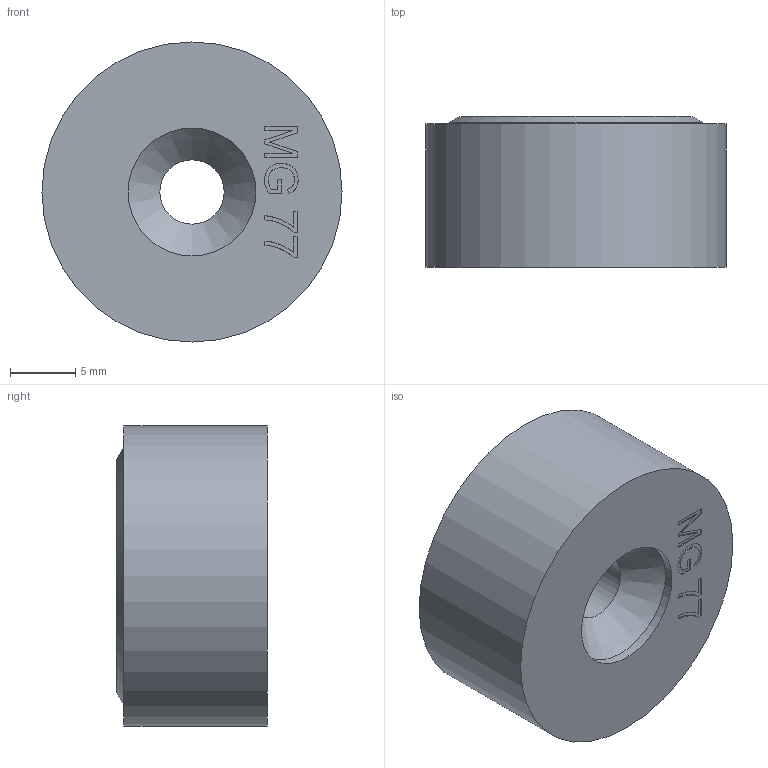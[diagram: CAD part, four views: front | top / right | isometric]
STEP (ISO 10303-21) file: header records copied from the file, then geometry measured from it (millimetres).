
FILE_DESCRIPTION(/* description */ ('Katalogmodell Elobau'),/* implementation_level */ '2;1');
FILE_NAME(/* name */ '300770_B.stp',/* time_stamp */ '2014-06-25T17:29:06+02:00',/* author */ ('Elobau GmbH & Co. KG'),/* organization */ ('Elobau GmbH & Co. KG'),/* preprocessor_version */ 'ST-DEVELOPER v15',/* originating_system */ 'SIEMENS PLM Software NX 8.5',/* authorisation */ '');
FILE_SCHEMA (('AUTOMOTIVE_DESIGN { 1 0 10303 214 3 1 1 1 }'));
Length unit declared in the file: millimetre
Products named in the file (1): 300770_B
Bounding box: 23 x 11.57 x 23 mm (x, y, z)
Volume: 4406.7 mm3; surface area: 1780.3 mm2
Topology: 1 solids, 1 shells, 49 faces, 123 edges, 82 vertices
Faces by surface type: plane 35, extrusion 8, cylinder 4, cone 2
Full cylindrical faces by diameter (mm): 4.931 x1, 9.8 x1, 20 x1, 23 x1
Entity records: 1707 total; most frequent: CARTESIAN_POINT 665, ORIENTED_EDGE 230, DIRECTION 147, EDGE_CURVE 115, VERTEX_POINT 80, B_SPLINE_CURVE_WITH_KNOTS 78, EDGE_LOOP 63, AXIS2_PLACEMENT_3D 52
